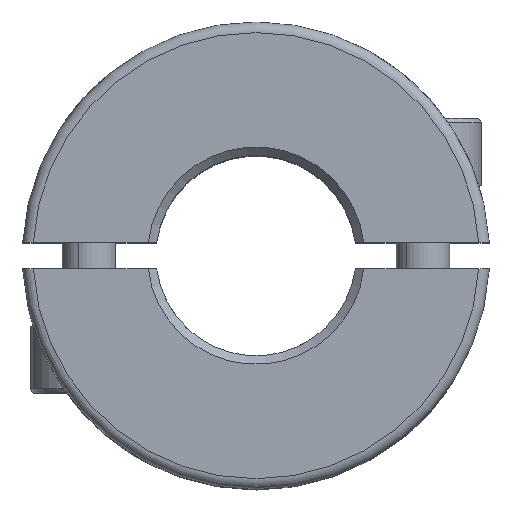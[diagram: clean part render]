
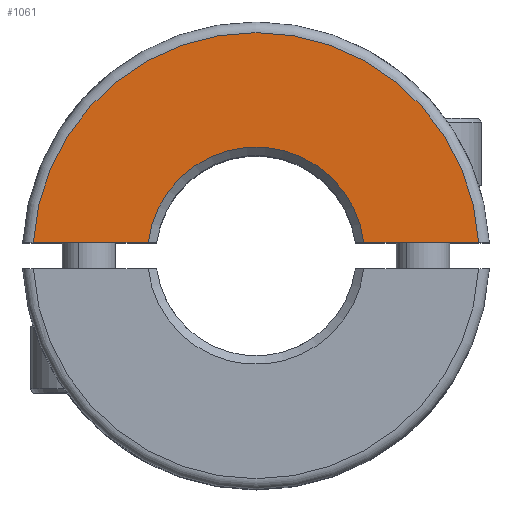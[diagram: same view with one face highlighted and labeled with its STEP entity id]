
A CAD part, top view. The second image highlights one B-rep face of the part: STEP entity #1061.
In plain terms, the highlighted planar face has unit normal (0, 0, 1).
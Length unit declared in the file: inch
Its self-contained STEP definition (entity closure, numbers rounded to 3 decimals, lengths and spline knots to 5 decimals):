
#62 = AXIS2_PLACEMENT_3D ( 'NONE', #776, #1797, #747 ) ;
#83 = CARTESIAN_POINT ( 'NONE',  ( -0.25438, 0.0313, 0.46427 ) ) ;
#87 = VERTEX_POINT ( 'NONE', #83 ) ;
#233 = CIRCLE ( 'NONE', #62, 0.2563 ) ;
#246 = VECTOR ( 'NONE', #2230, 39.37008 ) ;
#350 = ORIENTED_EDGE ( 'NONE', *, *, #1217, .F. ) ;
#366 = CARTESIAN_POINT ( 'NONE',  ( 0.25438, 0.0313, 0.46427 ) ) ;
#543 = DIRECTION ( 'NONE',  ( 0., 0., 1. ) ) ;
#586 = CARTESIAN_POINT ( 'NONE',  ( 0.55118, 0.0313, 0.46427 ) ) ;
#599 = ORIENTED_EDGE ( 'NONE', *, *, #2149, .T. ) ;
#647 = CARTESIAN_POINT ( 'NONE',  ( -0.52525, 0.0313, 0.46427 ) ) ;
#659 = VERTEX_POINT ( 'NONE', #647 ) ;
#715 = ORIENTED_EDGE ( 'NONE', *, *, #766, .F. ) ;
#729 = CARTESIAN_POINT ( 'NONE',  ( 0., 0., 0.46427 ) ) ;
#747 = DIRECTION ( 'NONE',  ( 1., 0., 0. ) ) ;
#766 = EDGE_CURVE ( 'NONE', #87, #659, #2069, .T. ) ;
#776 = CARTESIAN_POINT ( 'NONE',  ( 0., 0., 0.46427 ) ) ;
#849 = AXIS2_PLACEMENT_3D ( 'NONE', #729, #543, #1625 ) ;
#911 = EDGE_LOOP ( 'NONE', ( #2255, #715, #599, #350 ) ) ;
#1042 = VERTEX_POINT ( 'NONE', #366 ) ;
#1061 = ADVANCED_FACE ( 'NONE', ( #1374 ), #1788, .T. ) ;
#1215 = VECTOR ( 'NONE', #1972, 39.37008 ) ;
#1217 = EDGE_CURVE ( 'NONE', #1237, #1042, #1286, .T. ) ;
#1237 = VERTEX_POINT ( 'NONE', #1687 ) ;
#1284 = DIRECTION ( 'NONE',  ( 1., 0., 0. ) ) ;
#1286 = LINE ( 'NONE', #1363, #246 ) ;
#1363 = CARTESIAN_POINT ( 'NONE',  ( 0.55118, 0.0313, 0.46427 ) ) ;
#1374 = FACE_OUTER_BOUND ( 'NONE', #911, .T. ) ;
#1443 = CARTESIAN_POINT ( 'NONE',  ( 0., 0., 0.46427 ) ) ;
#1611 = AXIS2_PLACEMENT_3D ( 'NONE', #1443, #1815, #1284 ) ;
#1625 = DIRECTION ( 'NONE',  ( 1., 0., 0. ) ) ;
#1687 = CARTESIAN_POINT ( 'NONE',  ( 0.52525, 0.0313, 0.46427 ) ) ;
#1788 = PLANE ( 'NONE',  #849 ) ;
#1797 = DIRECTION ( 'NONE',  ( 0., 0., -1. ) ) ;
#1815 = DIRECTION ( 'NONE',  ( 0., 0., 1. ) ) ;
#1972 = DIRECTION ( 'NONE',  ( -1., 0., 0. ) ) ;
#2069 = LINE ( 'NONE', #586, #1215 ) ;
#2080 = EDGE_CURVE ( 'NONE', #1237, #659, #2124, .T. ) ;
#2124 = CIRCLE ( 'NONE', #1611, 0.52618 ) ;
#2149 = EDGE_CURVE ( 'NONE', #87, #1042, #233, .T. ) ;
#2230 = DIRECTION ( 'NONE',  ( -1., 0., 0. ) ) ;
#2255 = ORIENTED_EDGE ( 'NONE', *, *, #2080, .T. ) ;
